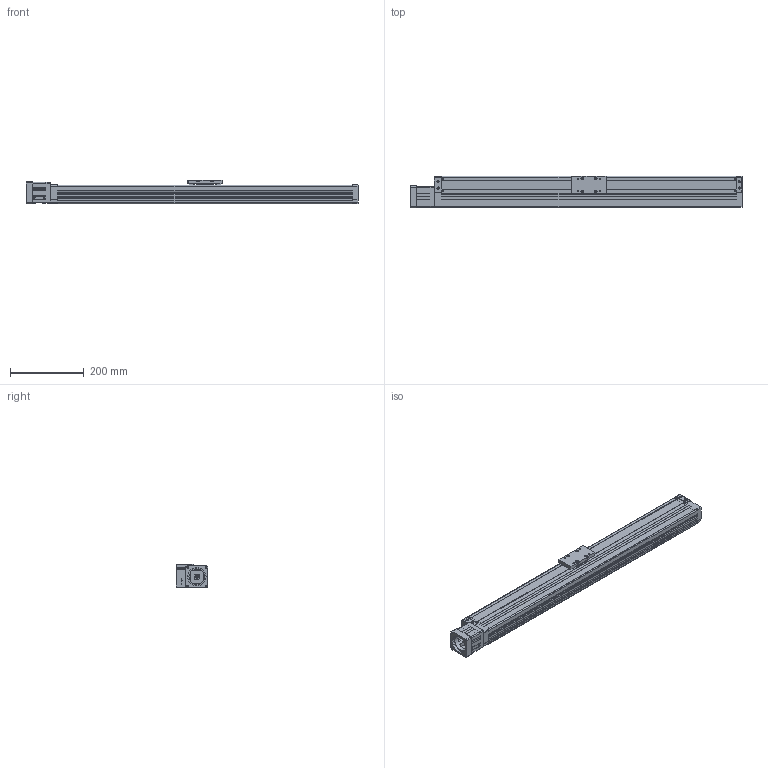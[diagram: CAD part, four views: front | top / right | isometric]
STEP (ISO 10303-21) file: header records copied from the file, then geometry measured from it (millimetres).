
FILE_DESCRIPTION((''),'2;1');
FILE_NAME('D:\製品 (図面)\カタログ用3D\SU部品\SU85×65\ダウンロード用\SU85×65-MB60\SU85×65-700-MB60.stp','2011-07-01T17:53:40',('Tsuchiya'),(''),'Autodesk Inventor 10','Autodesk Inventor 10','');
FILE_SCHEMA(('AUTOMOTIVE_DESIGN { 1 0 10303 214 1 1 1 1 }'));
Length unit declared in the file: millimetre
Products named in the file (3): SU85×65-700-MB60; SU85×65-700-MB601; SU85×65-700-MB602
Assembly tree (2 placements, depth 2):
  SU85×65-700-MB60
    SU85×65-700-MB601
    SU85×65-700-MB602
Bounding box: 901 x 86.45 x 65 mm (x, y, z)
Volume: 1596211.6 mm3; surface area: 561062.3 mm2
Topology: 8 solids, 8 shells, 841 faces, 2238 edges, 1450 vertices
Faces by surface type: plane 699, cylinder 108, cone 18, torus 12, bspline 4
Full cylindrical faces by diameter (mm): 3.242 x4, 4 x4, 4.134 x20, 4.5 x4, 5.5 x4, 6 x1, 7 x4, 8 x1, 11.5 x1, 12 x1, 13 x1, 43 x1, 50 x1
Entity records: 25870 total; most frequent: CARTESIAN_POINT 5199, ORIENTED_EDGE 4254, DIRECTION 4048, EDGE_CURVE 2127, VECTOR 1714, LINE 1714, VERTEX_POINT 1420, AXIS2_PLACEMENT_3D 1167
